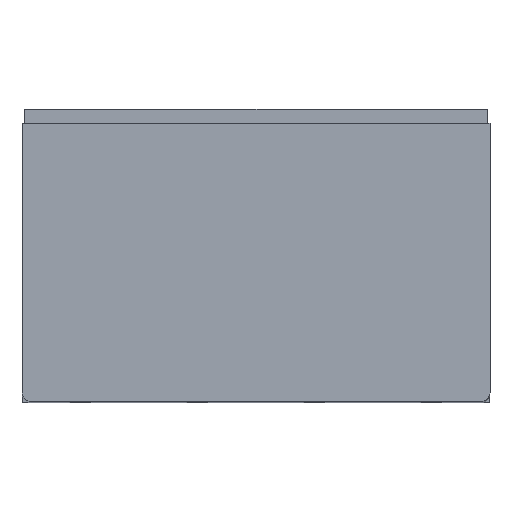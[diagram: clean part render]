
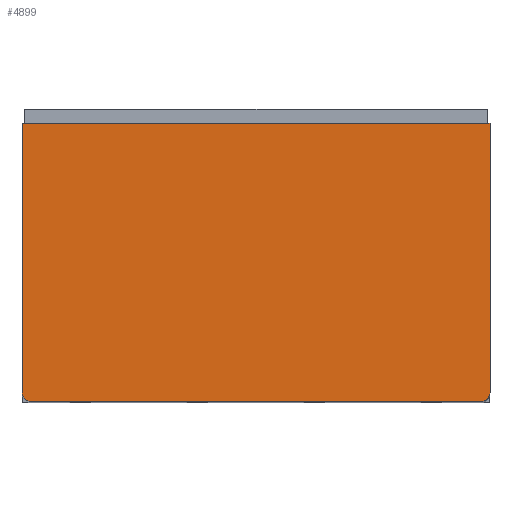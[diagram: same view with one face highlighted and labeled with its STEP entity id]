
A CAD part, top view. The second image highlights one B-rep face of the part: STEP entity #4899.
In plain terms, the highlighted planar face has unit normal (0, 0, 1) as drawn and (0, 0, -1) by its records, which use the part's own axes.
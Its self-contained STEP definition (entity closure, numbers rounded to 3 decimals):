
#4802=CARTESIAN_POINT('',(160.,92.,0.0));
#4803=VERTEX_POINT('',#4802);
#4810=CARTESIAN_POINT('',(157.,95.,0.0));
#4811=VERTEX_POINT('',#4810);
#4812=CARTESIAN_POINT('',(157.,92.,0.0));
#4813=DIRECTION('',(0.0,0.0,1.0));
#4814=DIRECTION('',(0.707,0.707,0.0));
#4815=AXIS2_PLACEMENT_3D('',#4812,#4813,#4814);
#4816=CIRCLE('',#4815,3.);
#4817=EDGE_CURVE('',#4803,#4811,#4816,.T.);
#4834=CARTESIAN_POINT('',(3.,95.,0.0));
#4835=VERTEX_POINT('',#4834);
#4836=CARTESIAN_POINT('',(157.,95.,0.0));
#4837=DIRECTION('',(-1.0,0.0,0.0));
#4838=VECTOR('',#4837,154.);
#4839=LINE('',#4836,#4838);
#4840=EDGE_CURVE('',#4811,#4835,#4839,.T.);
#4859=CARTESIAN_POINT('',(80.,47.5,0.0));
#4860=DIRECTION('',(0.0,0.0,1.0));
#4861=DIRECTION('',(1.0,0.0,0.0));
#4862=AXIS2_PLACEMENT_3D('',#4859,#4860,#4861);
#4863=PLANE('',#4862);
#4864=ORIENTED_EDGE('',*,*,#4817,.F.);
#4865=CARTESIAN_POINT('',(160.,0.0,0.0));
#4866=VERTEX_POINT('',#4865);
#4867=CARTESIAN_POINT('',(160.,0.0,0.0));
#4868=DIRECTION('',(0.0,1.0,0.0));
#4869=VECTOR('',#4868,92.);
#4870=LINE('',#4867,#4869);
#4871=EDGE_CURVE('',#4866,#4803,#4870,.T.);
#4872=ORIENTED_EDGE('',*,*,#4871,.F.);
#4873=CARTESIAN_POINT('',(0.0,0.0,0.0));
#4874=VERTEX_POINT('',#4873);
#4875=CARTESIAN_POINT('',(0.0,0.0,0.0));
#4876=DIRECTION('',(1.0,0.0,0.0));
#4877=VECTOR('',#4876,160.);
#4878=LINE('',#4875,#4877);
#4879=EDGE_CURVE('',#4874,#4866,#4878,.T.);
#4880=ORIENTED_EDGE('',*,*,#4879,.F.);
#4881=CARTESIAN_POINT('',(0.0,92.,0.0));
#4882=VERTEX_POINT('',#4881);
#4883=CARTESIAN_POINT('',(0.0,92.,0.0));
#4884=DIRECTION('',(0.0,-1.0,0.0));
#4885=VECTOR('',#4884,92.);
#4886=LINE('',#4883,#4885);
#4887=EDGE_CURVE('',#4882,#4874,#4886,.T.);
#4888=ORIENTED_EDGE('',*,*,#4887,.F.);
#4889=CARTESIAN_POINT('',(3.0,92.,0.0));
#4890=DIRECTION('',(0.0,0.0,1.0));
#4891=DIRECTION('',(-0.707,0.707,0.0));
#4892=AXIS2_PLACEMENT_3D('',#4889,#4890,#4891);
#4893=CIRCLE('',#4892,3.0);
#4894=EDGE_CURVE('',#4835,#4882,#4893,.T.);
#4895=ORIENTED_EDGE('',*,*,#4894,.F.);
#4896=ORIENTED_EDGE('',*,*,#4840,.F.);
#4897=EDGE_LOOP('',(#4864,#4872,#4880,#4888,#4895,#4896));
#4898=FACE_OUTER_BOUND('',#4897,.T.);
#4899=ADVANCED_FACE('',(#4898),#4863,.F.);
